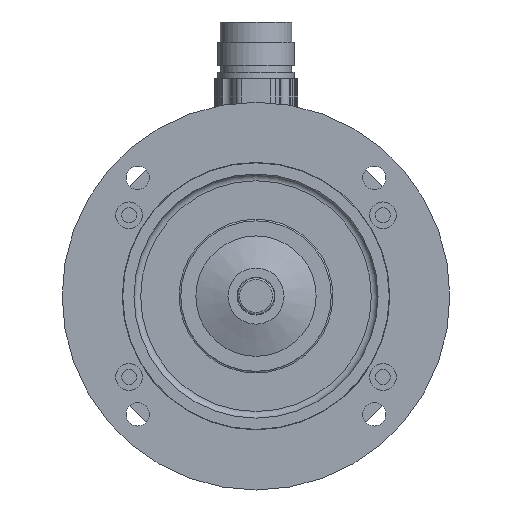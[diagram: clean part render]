
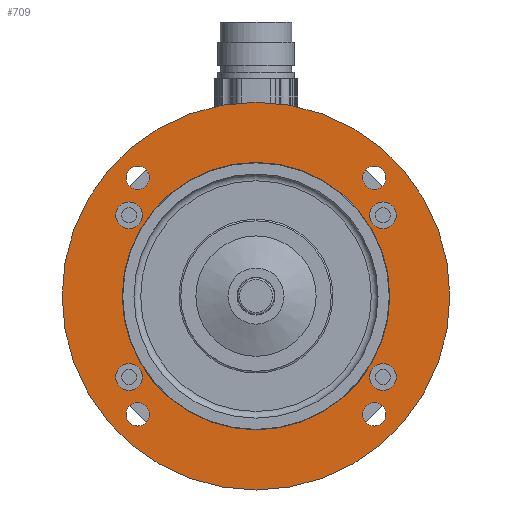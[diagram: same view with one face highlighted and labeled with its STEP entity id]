
A CAD part, front view. The second image highlights one B-rep face of the part: STEP entity #709.
In plain terms, the highlighted planar face has unit normal (0, -1, 0).
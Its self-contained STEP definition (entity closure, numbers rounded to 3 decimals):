
#709=ADVANCED_FACE('',(#1232,#1233,#1234,#1235,#1236,#1237,#1238,#1239,#1240,
#1052),#976,.T.);
#976=PLANE('',#4056);
#1052=FACE_OUTER_BOUND('',#1540,.T.);
#1232=FACE_BOUND('',#1531,.T.);
#1233=FACE_BOUND('',#1532,.T.);
#1234=FACE_BOUND('',#1533,.T.);
#1235=FACE_BOUND('',#1534,.T.);
#1236=FACE_BOUND('',#1535,.T.);
#1237=FACE_BOUND('',#1536,.T.);
#1238=FACE_BOUND('',#1537,.T.);
#1239=FACE_BOUND('',#1538,.T.);
#1240=FACE_BOUND('',#1539,.T.);
#1531=EDGE_LOOP('',(#2001));
#1532=EDGE_LOOP('',(#2002));
#1533=EDGE_LOOP('',(#2003));
#1534=EDGE_LOOP('',(#2004));
#1535=EDGE_LOOP('',(#2005));
#1536=EDGE_LOOP('',(#2006));
#1537=EDGE_LOOP('',(#2007));
#1538=EDGE_LOOP('',(#2008));
#1539=EDGE_LOOP('',(#2009));
#1540=EDGE_LOOP('',(#2010));
#2001=ORIENTED_EDGE('',*,*,#3258,.T.);
#2002=ORIENTED_EDGE('',*,*,#3259,.F.);
#2003=ORIENTED_EDGE('',*,*,#3260,.F.);
#2004=ORIENTED_EDGE('',*,*,#3261,.T.);
#2005=ORIENTED_EDGE('',*,*,#3262,.T.);
#2006=ORIENTED_EDGE('',*,*,#3263,.T.);
#2007=ORIENTED_EDGE('',*,*,#3264,.T.);
#2008=ORIENTED_EDGE('',*,*,#3265,.T.);
#2009=ORIENTED_EDGE('',*,*,#3266,.F.);
#2010=ORIENTED_EDGE('',*,*,#3267,.F.);
#2899=VERTEX_POINT('',#6012);
#2900=VERTEX_POINT('',#6014);
#2901=VERTEX_POINT('',#6016);
#2902=VERTEX_POINT('',#6018);
#2903=VERTEX_POINT('',#6020);
#2904=VERTEX_POINT('',#6022);
#2905=VERTEX_POINT('',#6024);
#2906=VERTEX_POINT('',#6026);
#2907=VERTEX_POINT('',#6028);
#2908=VERTEX_POINT('',#6030);
#3258=EDGE_CURVE('',#2899,#2899,#3707,.T.);
#3259=EDGE_CURVE('',#2900,#2900,#3708,.T.);
#3260=EDGE_CURVE('',#2901,#2901,#3709,.T.);
#3261=EDGE_CURVE('',#2902,#2902,#3710,.T.);
#3262=EDGE_CURVE('',#2903,#2903,#3711,.T.);
#3263=EDGE_CURVE('',#2904,#2904,#3712,.T.);
#3264=EDGE_CURVE('',#2905,#2905,#3713,.T.);
#3265=EDGE_CURVE('',#2906,#2906,#3714,.T.);
#3266=EDGE_CURVE('',#2907,#2907,#3715,.T.);
#3267=EDGE_CURVE('',#2908,#2908,#3716,.T.);
#3707=CIRCLE('',#4046,4.);
#3708=CIRCLE('',#4047,4.);
#3709=CIRCLE('',#4048,4.);
#3710=CIRCLE('',#4049,4.);
#3711=CIRCLE('',#4050,3.5);
#3712=CIRCLE('',#4051,3.5);
#3713=CIRCLE('',#4052,3.5);
#3714=CIRCLE('',#4053,3.5);
#3715=CIRCLE('',#4054,40.);
#3716=CIRCLE('',#4055,58.);
#4046=AXIS2_PLACEMENT_3D('',#6011,#4673,#4674);
#4047=AXIS2_PLACEMENT_3D('',#6013,#4675,#4676);
#4048=AXIS2_PLACEMENT_3D('',#6015,#4677,#4678);
#4049=AXIS2_PLACEMENT_3D('',#6017,#4679,#4680);
#4050=AXIS2_PLACEMENT_3D('',#6019,#4681,#4682);
#4051=AXIS2_PLACEMENT_3D('',#6021,#4683,#4684);
#4052=AXIS2_PLACEMENT_3D('',#6023,#4685,#4686);
#4053=AXIS2_PLACEMENT_3D('',#6025,#4687,#4688);
#4054=AXIS2_PLACEMENT_3D('',#6027,#4689,#4690);
#4055=AXIS2_PLACEMENT_3D('',#6029,#4691,#4692);
#4056=AXIS2_PLACEMENT_3D('',#6031,#4693,#4694);
#4673=DIRECTION('',(0.,1.,0.));
#4674=DIRECTION('',(0.,0.,-1.));
#4675=DIRECTION('',(0.,-1.,0.));
#4676=DIRECTION('',(0.,0.,-1.));
#4677=DIRECTION('',(0.,-1.,0.));
#4678=DIRECTION('',(0.,0.,1.));
#4679=DIRECTION('',(0.,1.,0.));
#4680=DIRECTION('',(0.,0.,1.));
#4681=DIRECTION('',(0.,1.,0.));
#4682=DIRECTION('',(-1.,0.,0.));
#4683=DIRECTION('',(0.,1.,0.));
#4684=DIRECTION('',(0.,0.,-1.));
#4685=DIRECTION('',(0.,1.,0.));
#4686=DIRECTION('',(1.,0.,0.));
#4687=DIRECTION('',(0.,1.,0.));
#4688=DIRECTION('',(0.,0.,1.));
#4689=DIRECTION('',(0.,-1.,0.));
#4690=DIRECTION('',(0.,0.,-1.));
#4691=DIRECTION('',(0.,1.,0.));
#4692=DIRECTION('',(0.,0.,1.));
#4693=DIRECTION('',(0.,-1.,0.));
#4694=DIRECTION('',(0.,0.,-1.));
#6011=CARTESIAN_POINT('',(37.953,0.,-24.178));
#6012=CARTESIAN_POINT('',(37.953,0.,-28.178));
#6013=CARTESIAN_POINT('',(-37.953,0.,-24.178));
#6014=CARTESIAN_POINT('',(-37.953,0.,-28.178));
#6015=CARTESIAN_POINT('',(37.953,0.,24.178));
#6016=CARTESIAN_POINT('',(37.953,0.,28.178));
#6017=CARTESIAN_POINT('',(-37.953,0.,24.178));
#6018=CARTESIAN_POINT('',(-37.953,0.,28.178));
#6019=CARTESIAN_POINT('',(-35.355,0.,-35.355));
#6020=CARTESIAN_POINT('',(-38.855,0.,-35.355));
#6021=CARTESIAN_POINT('',(35.355,0.,-35.355));
#6022=CARTESIAN_POINT('',(35.355,0.,-38.855));
#6023=CARTESIAN_POINT('',(35.355,0.,35.355));
#6024=CARTESIAN_POINT('',(38.855,0.,35.355));
#6025=CARTESIAN_POINT('',(-35.355,0.,35.355));
#6026=CARTESIAN_POINT('',(-35.355,0.,38.855));
#6027=CARTESIAN_POINT('',(0.,0.,0.));
#6028=CARTESIAN_POINT('',(0.,0.,-40.));
#6029=CARTESIAN_POINT('',(0.,0.,0.));
#6030=CARTESIAN_POINT('',(0.,0.,58.));
#6031=CARTESIAN_POINT('',(0.,0.,0.));
